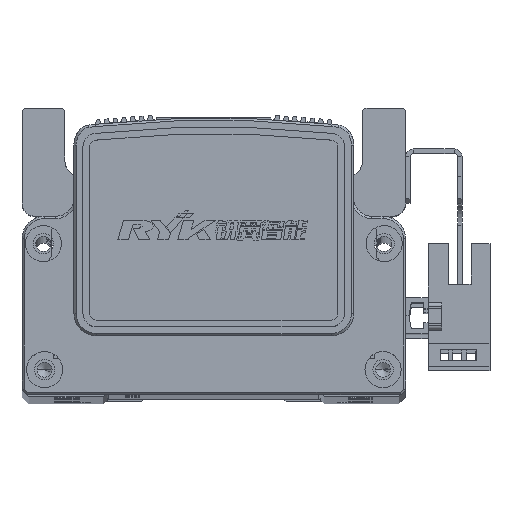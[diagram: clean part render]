
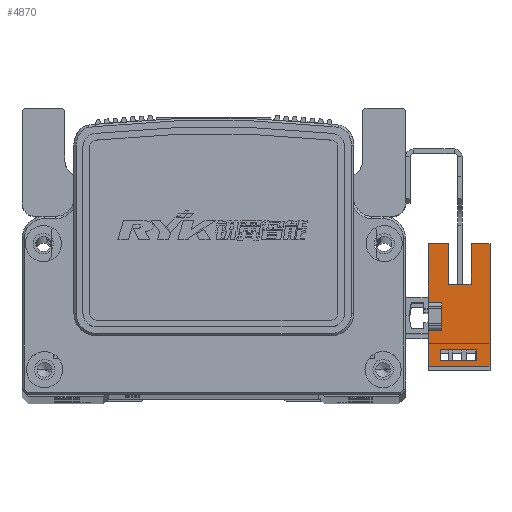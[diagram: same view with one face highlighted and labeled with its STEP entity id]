
A CAD part, top view. The second image highlights one B-rep face of the part: STEP entity #4870.
In plain terms, the highlighted planar face has unit normal (0, 0, 1) as drawn and (1, 0, 0) by its records, which use the part's own axes.
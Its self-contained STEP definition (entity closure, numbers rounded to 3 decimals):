
#3143 = VERTEX_POINT ( 'NONE', #62807 ) ;
#4870 = ADVANCED_FACE ( 'NONE', ( #42021, #41959 ), #60924, .T. ) ;
#17796 = DIRECTION ( 'NONE',  ( 0., 1., 0. ) ) ;
#17816 = DIRECTION ( 'NONE',  ( 0., 0., 1. ) ) ;
#17868 = CARTESIAN_POINT ( 'NONE',  ( 3.2, 16.1, -10.7 ) ) ;
#17875 = CARTESIAN_POINT ( 'NONE',  ( 3.2, 16.1, -7.7 ) ) ;
#17903 = DIRECTION ( 'NONE',  ( 0., 1., 0. ) ) ;
#17908 = DIRECTION ( 'NONE',  ( 0., 0., 1. ) ) ;
#17922 = DIRECTION ( 'NONE',  ( 0., 1., 0. ) ) ;
#17948 = CARTESIAN_POINT ( 'NONE',  ( 3.2, -9.83, -10.7 ) ) ;
#17950 = CARTESIAN_POINT ( 'NONE',  ( 3.2, 25.1, -1.5 ) ) ;
#17970 = CARTESIAN_POINT ( 'NONE',  ( 3.2, 16.1, 3. ) ) ;
#17975 = CARTESIAN_POINT ( 'NONE',  ( 3.2, 16.1, -10.7 ) ) ;
#18021 = DIRECTION ( 'NONE',  ( 0., 0., 1. ) ) ;
#18026 = CARTESIAN_POINT ( 'NONE',  ( 3.2, 16.1, 0.3 ) ) ;
#18065 = CARTESIAN_POINT ( 'NONE',  ( 3.2, 7.1, -6.5 ) ) ;
#18070 = DIRECTION ( 'NONE',  ( 0., -1., 0. ) ) ;
#18072 = DIRECTION ( 'NONE',  ( 0., 0., -1. ) ) ;
#18084 = DIRECTION ( 'NONE',  ( 0., 1., 0. ) ) ;
#18152 = CARTESIAN_POINT ( 'NONE',  ( 3.2, 16.1, 3. ) ) ;
#18156 = CARTESIAN_POINT ( 'NONE',  ( 3.2, -11.1, 3. ) ) ;
#18158 = DIRECTION ( 'NONE',  ( 0., 0., 1. ) ) ;
#18172 = CARTESIAN_POINT ( 'NONE',  ( 3.2, 3.1, 3. ) ) ;
#18208 = DIRECTION ( 'NONE',  ( 0., -1., 0. ) ) ;
#18210 = DIRECTION ( 'NONE',  ( 0., 0., 1. ) ) ;
#18216 = CARTESIAN_POINT ( 'NONE',  ( 3.2, 25.1, -6.5 ) ) ;
#18230 = DIRECTION ( 'NONE',  ( 0., 0., 1. ) ) ;
#18246 = CARTESIAN_POINT ( 'NONE',  ( 3.2, -7.33, -10.7 ) ) ;
#18267 = CARTESIAN_POINT ( 'NONE',  ( 3.2, 16.1, -10.7 ) ) ;
#18282 = CARTESIAN_POINT ( 'NONE',  ( 3.2, 0., 0. ) ) ;
#18286 = DIRECTION ( 'NONE',  ( 0., 1., 0. ) ) ;
#18301 = DIRECTION ( 'NONE',  ( 0., 1., 0. ) ) ;
#18312 = DIRECTION ( 'NONE',  ( 0., 0., -1. ) ) ;
#18329 = CARTESIAN_POINT ( 'NONE',  ( 3.2, -3.1, 3. ) ) ;
#23284 = ORIENTED_EDGE ( 'NONE', *, *, #56246, .T. ) ;
#23294 = ORIENTED_EDGE ( 'NONE', *, *, #56371, .T. ) ;
#23635 = ORIENTED_EDGE ( 'NONE', *, *, #56219, .T. ) ;
#23637 = ORIENTED_EDGE ( 'NONE', *, *, #56285, .F. ) ;
#23659 = ORIENTED_EDGE ( 'NONE', *, *, #56480, .F. ) ;
#23661 = ORIENTED_EDGE ( 'NONE', *, *, #56474, .T. ) ;
#23667 = ORIENTED_EDGE ( 'NONE', *, *, #56452, .F. ) ;
#23669 = ORIENTED_EDGE ( 'NONE', *, *, #56289, .F. ) ;
#23671 = ORIENTED_EDGE ( 'NONE', *, *, #56326, .F. ) ;
#23701 = ORIENTED_EDGE ( 'NONE', *, *, #56420, .F. ) ;
#23709 = ORIENTED_EDGE ( 'NONE', *, *, #56261, .F. ) ;
#23718 = ORIENTED_EDGE ( 'NONE', *, *, #56347, .F. ) ;
#23744 = ORIENTED_EDGE ( 'NONE', *, *, #56259, .T. ) ;
#23757 = ORIENTED_EDGE ( 'NONE', *, *, #56225, .F. ) ;
#23778 = ORIENTED_EDGE ( 'NONE', *, *, #56369, .F. ) ;
#23816 = ORIENTED_EDGE ( 'NONE', *, *, #56291, .T. ) ;
#29017 = LINE ( 'NONE', #17950, #29181 ) ;
#29023 = LINE ( 'NONE', #17868, #29079 ) ;
#29030 = LINE ( 'NONE', #17875, #29045 ) ;
#29045 = VECTOR ( 'NONE', #17796, 1000. ) ;
#29079 = VECTOR ( 'NONE', #17816, 1000. ) ;
#29109 = LINE ( 'NONE', #17970, #29139 ) ;
#29113 = LINE ( 'NONE', #18065, #29140 ) ;
#29116 = LINE ( 'NONE', #18026, #29162 ) ;
#29122 = VECTOR ( 'NONE', #18072, 1000. ) ;
#29139 = VECTOR ( 'NONE', #17922, 1000. ) ;
#29140 = VECTOR ( 'NONE', #18021, 1000. ) ;
#29162 = VECTOR ( 'NONE', #18070, 1000. ) ;
#29169 = LINE ( 'NONE', #17975, #29192 ) ;
#29181 = VECTOR ( 'NONE', #17903, 1000. ) ;
#29192 = VECTOR ( 'NONE', #17908, 1000. ) ;
#29208 = LINE ( 'NONE', #17948, #29122 ) ;
#29220 = VECTOR ( 'NONE', #18210, 1000. ) ;
#29225 = VECTOR ( 'NONE', #18208, 1000. ) ;
#29249 = VECTOR ( 'NONE', #18084, 1000. ) ;
#29276 = LINE ( 'NONE', #18156, #29289 ) ;
#29289 = VECTOR ( 'NONE', #18158, 1000. ) ;
#29310 = LINE ( 'NONE', #18152, #29249 ) ;
#29315 = LINE ( 'NONE', #18172, #29220 ) ;
#29324 = LINE ( 'NONE', #18216, #29225 ) ;
#29350 = VECTOR ( 'NONE', #18301, 1000. ) ;
#29353 = VECTOR ( 'NONE', #18230, 1000. ) ;
#29388 = LINE ( 'NONE', #18267, #29390 ) ;
#29390 = VECTOR ( 'NONE', #18286, 1000. ) ;
#29403 = LINE ( 'NONE', #18246, #29353 ) ;
#29427 = LINE ( 'NONE', #18282, #29350 ) ;
#29456 = VECTOR ( 'NONE', #18312, 1000. ) ;
#29535 = LINE ( 'NONE', #18329, #29456 ) ;
#31340 = CARTESIAN_POINT ( 'NONE',  ( 3.2, -11.1, 3. ) ) ;
#32485 = CARTESIAN_POINT ( 'NONE',  ( 3.2, 3.1, 0. ) ) ;
#32505 = CARTESIAN_POINT ( 'NONE',  ( 3.2, 16.1, 3. ) ) ;
#32533 = CARTESIAN_POINT ( 'NONE',  ( 3.2, -3.1, 0. ) ) ;
#32541 = CARTESIAN_POINT ( 'NONE',  ( 3.2, 16.1, -1.5 ) ) ;
#32556 = CARTESIAN_POINT ( 'NONE',  ( 3.2, 3.1, 3. ) ) ;
#32568 = CARTESIAN_POINT ( 'NONE',  ( 3.2, -3.1, 3. ) ) ;
#32583 = CARTESIAN_POINT ( 'NONE',  ( 3.2, -9.83, 0.3 ) ) ;
#32593 = CARTESIAN_POINT ( 'NONE',  ( 3.2, -7.33, -7.7 ) ) ;
#32605 = CARTESIAN_POINT ( 'NONE',  ( 3.2, -7.33, 0.3 ) ) ;
#32632 = CARTESIAN_POINT ( 'NONE',  ( 3.2, 7.1, -6.5 ) ) ;
#32634 = CARTESIAN_POINT ( 'NONE',  ( 3.2, 7.1, -1.5 ) ) ;
#32646 = CARTESIAN_POINT ( 'NONE',  ( 3.2, -9.83, -7.7 ) ) ;
#32655 = CARTESIAN_POINT ( 'NONE',  ( 3.2, -11.1, -10.7 ) ) ;
#41959 = FACE_BOUND ( 'NONE', #52434, .T. ) ;
#42021 = FACE_OUTER_BOUND ( 'NONE', #52413, .T. ) ;
#44603 = AXIS2_PLACEMENT_3D ( 'NONE', #60968, #60970, #60943 ) ;
#48567 = CARTESIAN_POINT ( 'NONE',  ( 3.2, 16.1, -10.7 ) ) ;
#50436 = VERTEX_POINT ( 'NONE', #32505 ) ;
#50445 = VERTEX_POINT ( 'NONE', #32485 ) ;
#50503 = VERTEX_POINT ( 'NONE', #32541 ) ;
#50522 = VERTEX_POINT ( 'NONE', #32583 ) ;
#50523 = VERTEX_POINT ( 'NONE', #32568 ) ;
#50529 = VERTEX_POINT ( 'NONE', #32593 ) ;
#50536 = VERTEX_POINT ( 'NONE', #32533 ) ;
#50563 = VERTEX_POINT ( 'NONE', #32556 ) ;
#50576 = VERTEX_POINT ( 'NONE', #32605 ) ;
#50586 = VERTEX_POINT ( 'NONE', #32655 ) ;
#50596 = VERTEX_POINT ( 'NONE', #32646 ) ;
#50601 = VERTEX_POINT ( 'NONE', #32634 ) ;
#50619 = VERTEX_POINT ( 'NONE', #32632 ) ;
#51791 = VERTEX_POINT ( 'NONE', #31340 ) ;
#52413 = EDGE_LOOP ( 'NONE', ( #23294, #23816, #23284, #23744, #23671, #23778, #23667, #23659, #23709, #23718, #23661, #23635 ) ) ;
#52434 = EDGE_LOOP ( 'NONE', ( #23637, #23701, #23757, #23669 ) ) ;
#56219 = EDGE_CURVE ( 'NONE', #57701, #3143, #29023, .T. ) ;
#56225 = EDGE_CURVE ( 'NONE', #50596, #50529, #29030, .T. ) ;
#56246 = EDGE_CURVE ( 'NONE', #50601, #50503, #29017, .T. ) ;
#56259 = EDGE_CURVE ( 'NONE', #50503, #50436, #29169, .T. ) ;
#56261 = EDGE_CURVE ( 'NONE', #51791, #50523, #29109, .T. ) ;
#56285 = EDGE_CURVE ( 'NONE', #50576, #50522, #29116, .T. ) ;
#56289 = EDGE_CURVE ( 'NONE', #50522, #50596, #29208, .T. ) ;
#56291 = EDGE_CURVE ( 'NONE', #50619, #50601, #29113, .T. ) ;
#56326 = EDGE_CURVE ( 'NONE', #50563, #50436, #29310, .T. ) ;
#56347 = EDGE_CURVE ( 'NONE', #50586, #51791, #29276, .T. ) ;
#56369 = EDGE_CURVE ( 'NONE', #50445, #50563, #29315, .T. ) ;
#56371 = EDGE_CURVE ( 'NONE', #3143, #50619, #29324, .T. ) ;
#56420 = EDGE_CURVE ( 'NONE', #50529, #50576, #29403, .T. ) ;
#56452 = EDGE_CURVE ( 'NONE', #50536, #50445, #29427, .T. ) ;
#56474 = EDGE_CURVE ( 'NONE', #50586, #57701, #29388, .T. ) ;
#56480 = EDGE_CURVE ( 'NONE', #50523, #50536, #29535, .T. ) ;
#57701 = VERTEX_POINT ( 'NONE', #48567 ) ;
#60924 = PLANE ( 'NONE',  #44603 ) ;
#60943 = DIRECTION ( 'NONE',  ( 0., 1., 0. ) ) ;
#60968 = CARTESIAN_POINT ( 'NONE',  ( 3.2, 16.1, -10.7 ) ) ;
#60970 = DIRECTION ( 'NONE',  ( 1., 0., 0. ) ) ;
#62807 = CARTESIAN_POINT ( 'NONE',  ( 3.2, 16.1, -6.5 ) ) ;
